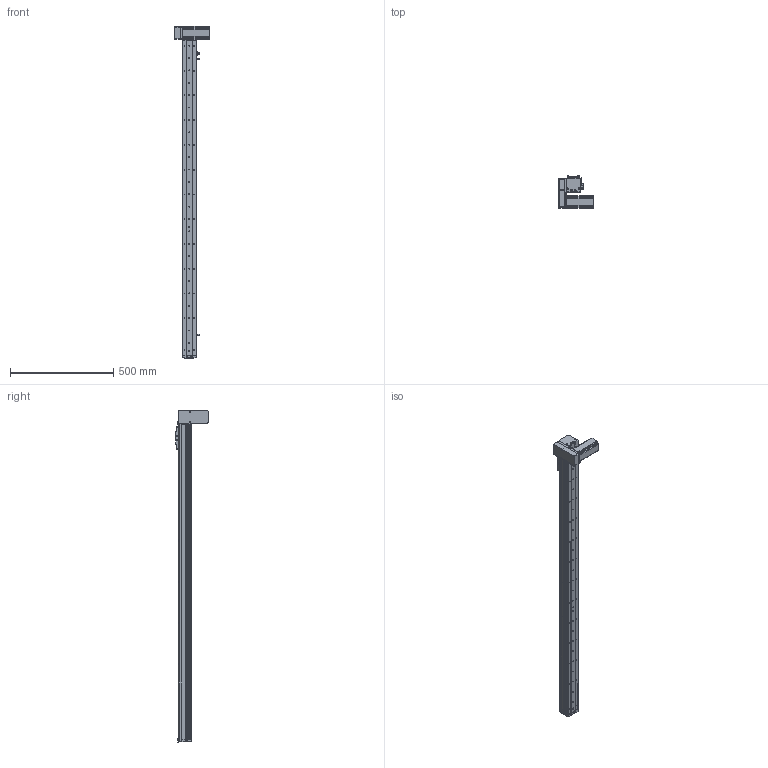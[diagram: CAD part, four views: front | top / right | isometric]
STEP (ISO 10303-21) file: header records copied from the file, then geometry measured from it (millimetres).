
FILE_DESCRIPTION (( 'STEP AP214' ), '1' );
FILE_NAME ('KSD68BS-S1350-MRD-CR.STEP', '2019-11-08T03:41:03', ( '微软用户' ), ( '微软中国' ), 'SwSTEP 2.0', 'SolidWorks 2014', '' );
FILE_SCHEMA (( 'AUTOMOTIVE_DESIGN' ));
Length unit declared in the file: millimetre
Products named in the file (14): KSD68BS 1350行程盖板全封闭; 68宽单导轨全封闭丝杆传动安装板1防护罩; KSD68BS 1350行程侧板全封闭; 68宽单导轨全封闭同步带端板; 68单导轨全封闭同步带电机座右; 68单导轨全封闭同步带安装板; 悵誘欶奻狟殏; 68宽马达安装板连板上折同步带; 68遵裔啣揤啣1; 感应片68宽全封闭; U倰嫖萇EEㄜSX672; 台达ECMA－C20604AS伺服电机（400W); KSD68BS 1350行程底板全封闭; KSD68BS-S1350-MRD-CR
Assembly tree (17 placements, depth 2):
  KSD68BS-S1350-MRD-CR
    KSD68BS 1350行程底板全封闭
    台达ECMA－C20604AS伺服电机（400W)
    U倰嫖萇EEㄜSX672  x3
    感应片68宽全封闭
    68宽马达安装板连板上折同步带
    悵誘欶奻狟殏
    68单导轨全封闭同步带安装板
    68单导轨全封闭同步带电机座右
    68宽单导轨全封闭同步带端板
    KSD68BS 1350行程侧板全封闭  x2
    68宽单导轨全封闭丝杆传动安装板1防护罩
    68遵裔啣揤啣1  x2
    KSD68BS 1350行程盖板全封闭
Bounding box: 167.2 x 155.5 x 1608.1 mm (x, y, z)
Volume: 3008610.9 mm3; surface area: 1194691.2 mm2
Topology: 18 solids, 18 shells, 1574 faces, 4511 edges, 2877 vertices
Faces by surface type: cylinder 763, plane 631, cone 180
Entity records: 50730 total; most frequent: CARTESIAN_POINT 8747, DIRECTION 7575, ORIENTED_EDGE 7242, EDGE_CURVE 3621, AXIS2_PLACEMENT_3D 2751, VERTEX_POINT 2375, VECTOR 2073, LINE 2073
